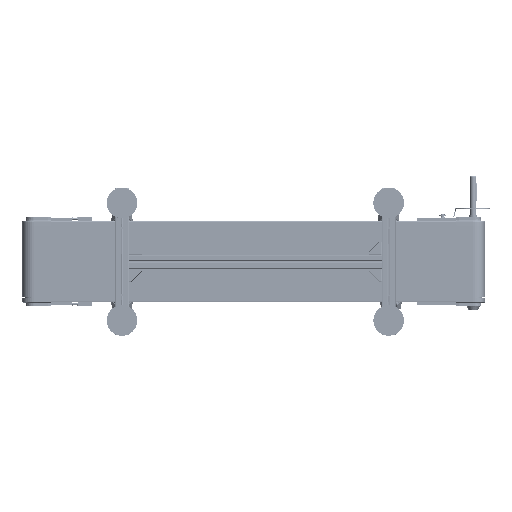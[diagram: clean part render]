
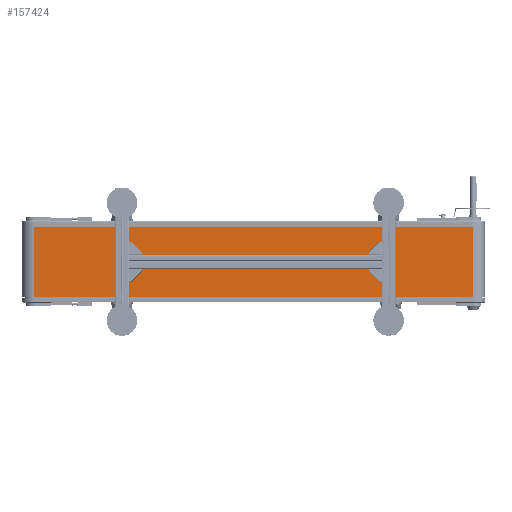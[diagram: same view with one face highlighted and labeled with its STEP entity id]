
A CAD part, front view. The second image highlights one B-rep face of the part: STEP entity #157424.
In plain terms, the highlighted planar face has unit normal (0, -1, 0).
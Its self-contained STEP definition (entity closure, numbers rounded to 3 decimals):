
#2728 = CARTESIAN_POINT ( 'NONE',  ( 114.3, -77.4, 0. ) ) ;
#2755 = CARTESIAN_POINT ( 'NONE',  ( 114.3, -77.4, 0. ) ) ;
#4549 = DIRECTION ( 'NONE',  ( 0., 0., 1. ) ) ;
#11395 = AXIS2_PLACEMENT_3D ( 'NONE', #62349, #97754, #12586 ) ;
#12586 = DIRECTION ( 'NONE',  ( 0., 0., -1. ) ) ;
#16146 = VERTEX_POINT ( 'NONE', #118321 ) ;
#17443 = EDGE_CURVE ( 'NONE', #16146, #65291, #112845, .T. ) ;
#18240 = EDGE_CURVE ( 'NONE', #16146, #106666, #125901, .T. ) ;
#18468 = CARTESIAN_POINT ( 'NONE',  ( -114.3, -77.4, 1435. ) ) ;
#25552 = ORIENTED_EDGE ( 'NONE', *, *, #87780, .T. ) ;
#25762 = VERTEX_POINT ( 'NONE', #27185 ) ;
#26097 = DIRECTION ( 'NONE',  ( 0., 0., 1. ) ) ;
#27185 = CARTESIAN_POINT ( 'NONE',  ( 114.3, -77.4, 1435. ) ) ;
#38120 = LINE ( 'NONE', #2728, #113557 ) ;
#49540 = FACE_OUTER_BOUND ( 'NONE', #81285, .T. ) ;
#54322 = ORIENTED_EDGE ( 'NONE', *, *, #18240, .F. ) ;
#62349 = CARTESIAN_POINT ( 'NONE',  ( 114.3, -77.4, 0. ) ) ;
#63213 = CARTESIAN_POINT ( 'NONE',  ( 114.3, -77.4, 1435. ) ) ;
#65291 = VERTEX_POINT ( 'NONE', #75195 ) ;
#68407 = VECTOR ( 'NONE', #88706, 1000. ) ;
#75195 = CARTESIAN_POINT ( 'NONE',  ( 114.3, -77.4, 0. ) ) ;
#76075 = DIRECTION ( 'NONE',  ( 1., 0., 0. ) ) ;
#81285 = EDGE_LOOP ( 'NONE', ( #25552, #145835, #54322, #86883 ) ) ;
#83115 = EDGE_CURVE ( 'NONE', #106666, #25762, #111453, .T. ) ;
#86883 = ORIENTED_EDGE ( 'NONE', *, *, #17443, .T. ) ;
#87780 = EDGE_CURVE ( 'NONE', #65291, #25762, #38120, .T. ) ;
#88706 = DIRECTION ( 'NONE',  ( 1., 0., 0. ) ) ;
#88921 = CARTESIAN_POINT ( 'NONE',  ( -114.3, -77.4, 0. ) ) ;
#91692 = VECTOR ( 'NONE', #4549, 1000. ) ;
#97754 = DIRECTION ( 'NONE',  ( 0., -1., 0. ) ) ;
#99310 = PLANE ( 'NONE',  #11395 ) ;
#106666 = VERTEX_POINT ( 'NONE', #18468 ) ;
#111453 = LINE ( 'NONE', #63213, #138623 ) ;
#112845 = LINE ( 'NONE', #2755, #68407 ) ;
#113557 = VECTOR ( 'NONE', #26097, 1000. ) ;
#118321 = CARTESIAN_POINT ( 'NONE',  ( -114.3, -77.4, 0. ) ) ;
#125901 = LINE ( 'NONE', #88921, #91692 ) ;
#138623 = VECTOR ( 'NONE', #76075, 1000. ) ;
#145835 = ORIENTED_EDGE ( 'NONE', *, *, #83115, .F. ) ;
#157424 = ADVANCED_FACE ( 'NONE', ( #49540 ), #99310, .T. ) ;
